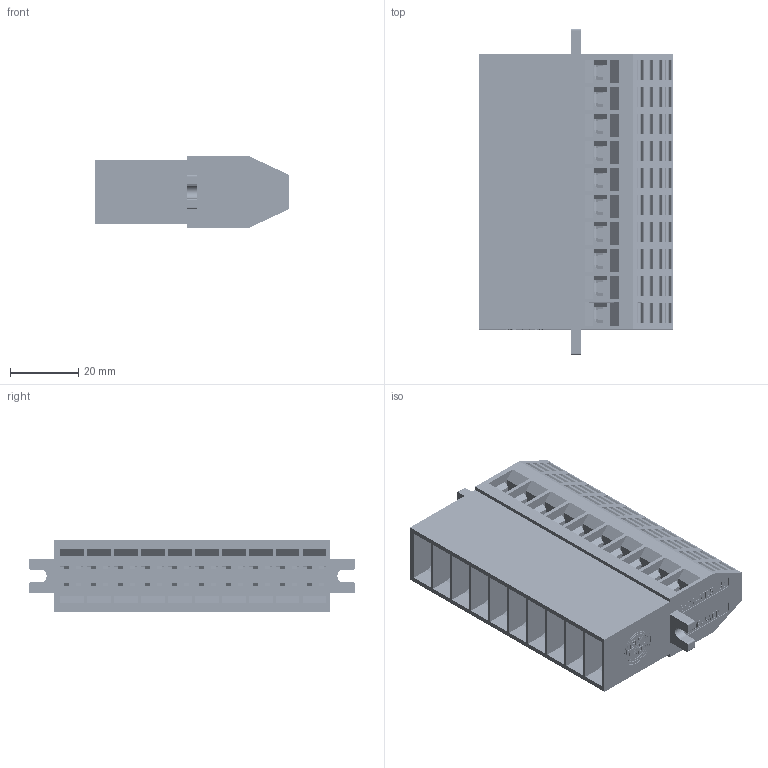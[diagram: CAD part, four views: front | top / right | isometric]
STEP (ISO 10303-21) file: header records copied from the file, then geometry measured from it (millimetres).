
FILE_DESCRIPTION(('STEP AP214'), '1');
FILE_NAME('栖闉罻 (10) 麧蠉錪', '2024-05-03T05:57:09', (''), (''), 'ASCON STEP Converter 1.6', 'ASCON Math Kernel', '');
FILE_SCHEMA(('AUTOMOTIVE_DESIGN { 1 0 10303 214 3 1 1}'));
Length unit declared in the file: millimetre
Bounding box: 57 x 95.6 x 21 mm (x, y, z)
Volume: 45982.4 mm3; surface area: 50431.3 mm2
Topology: 41 solids, 41 shells, 16033 faces, 46052 edges, 30508 vertices
Faces by surface type: plane 8050, cylinder 7873, bspline 80, torus 20, sphere 10
Full cylindrical faces by diameter (mm): 1 x20, 3 x20, 5.6 x10, 11.4 x10
Entity records: 660655 total; most frequent: CARTESIAN_POINT 96704, DIRECTION 93667, ORIENTED_EDGE 91924, EDGE_CURVE 45962, AXIS2_PLACEMENT_3D 31921, VERTEX_POINT 30508, LINE 29825, VECTOR 29825
